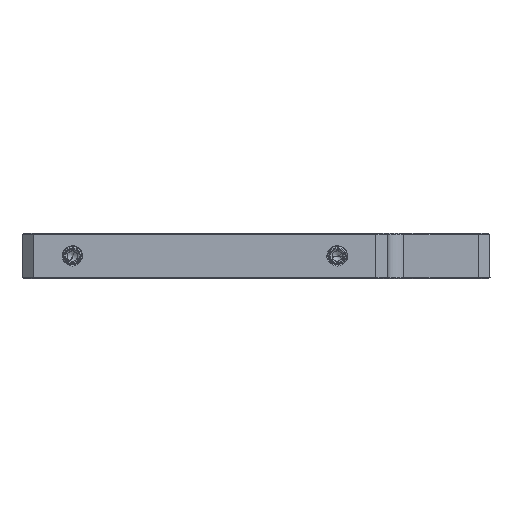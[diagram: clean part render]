
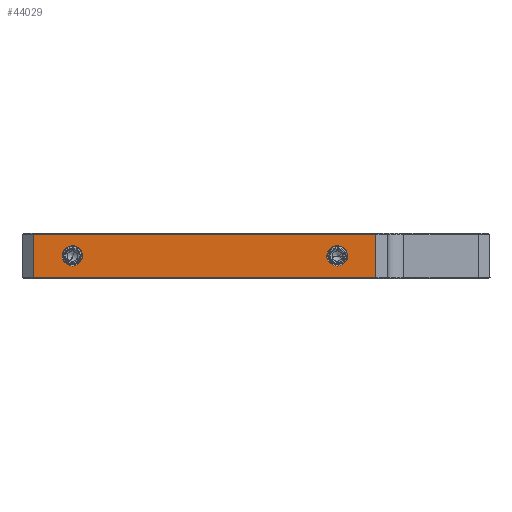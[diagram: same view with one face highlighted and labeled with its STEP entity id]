
A CAD part, left-side view. The second image highlights one B-rep face of the part: STEP entity #44029.
In plain terms, the highlighted planar face has unit normal (-1, 0, 0).
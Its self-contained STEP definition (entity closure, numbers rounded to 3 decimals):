
#29282=DIRECTION('',(0.,-1.,0.));
#29283=VECTOR('',#29282,66.548);
#29284=CARTESIAN_POINT('',(-50.008,46.47,
16.128));
#29285=LINE('',#29284,#29283);
#29286=DIRECTION('',(0.,0.,1.));
#29287=VECTOR('',#29286,8.382);
#29288=CARTESIAN_POINT('',(-50.008,-20.078,
7.746));
#29289=LINE('',#29288,#29287);
#29290=CARTESIAN_POINT('',(-50.008,40.613,
10.915));
#29291=CARTESIAN_POINT('',(-50.008,40.666,
10.986));
#29292=CARTESIAN_POINT('',(-50.008,40.762,
11.132));
#29293=CARTESIAN_POINT('',(-50.008,40.836,
11.285));
#29294=CARTESIAN_POINT('',(-50.008,40.868,
11.364));
#29296=CARTESIAN_POINT('',(-50.008,40.229,
13.477));
#29297=CARTESIAN_POINT('',(-50.008,40.158,
13.525));
#29298=CARTESIAN_POINT('',(-50.008,40.01,
13.612));
#29299=CARTESIAN_POINT('',(-50.008,39.85,
13.68));
#29300=CARTESIAN_POINT('',(-50.008,39.767,
13.709));
#29302=CARTESIAN_POINT('',(-50.008,40.868,
11.364));
#29303=CARTESIAN_POINT('',(-50.008,40.926,
11.557));
#29304=CARTESIAN_POINT('',(-50.008,40.979,
11.942));
#29305=CARTESIAN_POINT('',(-50.008,40.895,
12.522));
#29306=CARTESIAN_POINT('',(-50.008,40.637,
13.066));
#29307=CARTESIAN_POINT('',(-50.008,40.381,
13.35));
#29308=CARTESIAN_POINT('',(-50.008,40.229,
13.477));
#29310=CARTESIAN_POINT('',(-50.008,-14.476,
11.364));
#29311=CARTESIAN_POINT('',(-50.008,-14.443,
11.285));
#29312=CARTESIAN_POINT('',(-50.008,-14.369,
11.132));
#29313=CARTESIAN_POINT('',(-50.008,-14.274,
10.986));
#29314=CARTESIAN_POINT('',(-50.008,-14.22,
10.915));
#29316=CARTESIAN_POINT('',(-50.008,-13.836,
13.477));
#29317=CARTESIAN_POINT('',(-50.008,-13.989,
13.35));
#29318=CARTESIAN_POINT('',(-50.008,-14.245,
13.066));
#29319=CARTESIAN_POINT('',(-50.008,-14.503,
12.522));
#29320=CARTESIAN_POINT('',(-50.008,-14.587,
11.942));
#29321=CARTESIAN_POINT('',(-50.008,-14.533,
11.557));
#29322=CARTESIAN_POINT('',(-50.008,-14.476,
11.364));
#29324=CARTESIAN_POINT('',(-50.008,-13.375,
13.709));
#29325=CARTESIAN_POINT('',(-50.008,-13.458,
13.68));
#29326=CARTESIAN_POINT('',(-50.008,-13.617,
13.612));
#29327=CARTESIAN_POINT('',(-50.008,-13.765,
13.525));
#29328=CARTESIAN_POINT('',(-50.008,-13.836,
13.477));
#29330=DIRECTION('',(0.,0.,1.));
#29331=VECTOR('',#29330,8.382);
#29332=CARTESIAN_POINT('',(-50.008,46.47,
7.746));
#29333=LINE('',#29332,#29331);
#29619=DIRECTION('',(0.,1.,0.));
#29620=VECTOR('',#29619,66.548);
#29621=CARTESIAN_POINT('',(-50.008,-20.078,
7.746));
#29622=LINE('',#29621,#29620);
#30643=CARTESIAN_POINT('',(-50.008,38.952,
11.937));
#30644=DIRECTION('',(1.,0.,0.));
#30645=DIRECTION('',(0.,0.418,0.908));
#30646=AXIS2_PLACEMENT_3D('',#30643,#30644,#30645);
#33845=CARTESIAN_POINT('',(-50.008,-14.476,
11.364));
#34193=CARTESIAN_POINT('',(-50.008,-13.836,
13.477));
#34985=CARTESIAN_POINT('',(-50.008,-12.559,
11.937));
#34986=DIRECTION('',(1.,0.,0.));
#34987=DIRECTION('',(0.,-0.852,-0.524));
#34988=AXIS2_PLACEMENT_3D('',#34985,#34986,#34987);
#42768=CARTESIAN_POINT('',(-50.008,-20.078,
16.128));
#42770=VERTEX_POINT('',#42768);
#42848=CARTESIAN_POINT('',(-50.008,-20.078,
7.746));
#42849=CARTESIAN_POINT('',(-50.008,46.47,
7.746));
#42850=VERTEX_POINT('',#42848);
#42851=VERTEX_POINT('',#42849);
#42922=CARTESIAN_POINT('',(-50.008,46.47,
16.128));
#42923=VERTEX_POINT('',#42922);
#43036=VERTEX_POINT('',#29290);
#43037=VERTEX_POINT('',#29294);
#43038=VERTEX_POINT('',#29308);
#43039=VERTEX_POINT('',#29300);
#43143=VERTEX_POINT('',#33845);
#43144=VERTEX_POINT('',#34193);
#43179=VERTEX_POINT('',#29314);
#43180=VERTEX_POINT('',#29324);
#43995=CARTESIAN_POINT('',(-50.008,-20.078,
16.382));
#43996=DIRECTION('',(1.,0.,0.));
#43997=DIRECTION('',(0.,0.,-1.));
#43998=AXIS2_PLACEMENT_3D('',#43995,#43996,#43997);
#43999=PLANE('',#43998);
#44001=ORIENTED_EDGE('',*,*,#44000,.T.);
#44002=ORIENTED_EDGE('',*,*,#43990,.T.);
#44004=ORIENTED_EDGE('',*,*,#44003,.F.);
#44006=ORIENTED_EDGE('',*,*,#44005,.T.);
#44007=EDGE_LOOP('',(#44001,#44002,#44004,#44006));
#44008=FACE_OUTER_BOUND('',#44007,.F.);
#44010=ORIENTED_EDGE('',*,*,#44009,.F.);
#44012=ORIENTED_EDGE('',*,*,#44011,.F.);
#44014=ORIENTED_EDGE('',*,*,#44013,.F.);
#44016=ORIENTED_EDGE('',*,*,#44015,.F.);
#44017=EDGE_LOOP('',(#44010,#44012,#44014,#44016));
#44018=FACE_BOUND('',#44017,.F.);
#44020=ORIENTED_EDGE('',*,*,#44019,.F.);
#44022=ORIENTED_EDGE('',*,*,#44021,.F.);
#44024=ORIENTED_EDGE('',*,*,#44023,.F.);
#44026=ORIENTED_EDGE('',*,*,#44025,.F.);
#44027=EDGE_LOOP('',(#44020,#44022,#44024,#44026));
#44028=FACE_BOUND('',#44027,.F.);
#44029=ADVANCED_FACE('',(#44008,#44018,#44028),#43999,.F.);
#29295=B_SPLINE_CURVE_WITH_KNOTS('',3,(#29290,#29291,#29292,#29293,#29294),
.UNSPECIFIED.,.F.,.F.,(4,1,4),(0.,0.5,1.),.UNSPECIFIED.);
#29301=B_SPLINE_CURVE_WITH_KNOTS('',3,(#29296,#29297,#29298,#29299,#29300),
.UNSPECIFIED.,.F.,.F.,(4,1,4),(0.,0.5,1.),.UNSPECIFIED.);
#29309=B_SPLINE_CURVE_WITH_KNOTS('',3,(#29302,#29303,#29304,#29305,#29306,
#29307,#29308),.UNSPECIFIED.,.F.,.F.,(4,1,1,1,4),(0.,0.25,0.5,0.75,
1.),.UNSPECIFIED.);
#29315=B_SPLINE_CURVE_WITH_KNOTS('',3,(#29310,#29311,#29312,#29313,#29314),
.UNSPECIFIED.,.F.,.F.,(4,1,4),(0.,0.5,1.),.UNSPECIFIED.);
#29323=B_SPLINE_CURVE_WITH_KNOTS('',3,(#29316,#29317,#29318,#29319,#29320,
#29321,#29322),.UNSPECIFIED.,.F.,.F.,(4,1,1,1,4),(0.,0.25,0.5,0.75,
1.),.UNSPECIFIED.);
#29329=B_SPLINE_CURVE_WITH_KNOTS('',3,(#29324,#29325,#29326,#29327,#29328),
.UNSPECIFIED.,.F.,.F.,(4,1,4),(0.,0.5,1.),.UNSPECIFIED.);
#30647=CIRCLE('',#30646,1.95);
#34989=CIRCLE('',#34988,1.95);
#43990=EDGE_CURVE('',#42923,#42770,#29285,.T.);
#44000=EDGE_CURVE('',#42851,#42923,#29333,.T.);
#44003=EDGE_CURVE('',#42850,#42770,#29289,.T.);
#44005=EDGE_CURVE('',#42850,#42851,#29622,.T.);
#44009=EDGE_CURVE('',#43036,#43037,#29295,.T.);
#44011=EDGE_CURVE('',#43039,#43036,#30647,.T.);
#44013=EDGE_CURVE('',#43038,#43039,#29301,.T.);
#44015=EDGE_CURVE('',#43037,#43038,#29309,.T.);
#44019=EDGE_CURVE('',#43143,#43179,#29315,.T.);
#44021=EDGE_CURVE('',#43144,#43143,#29323,.T.);
#44023=EDGE_CURVE('',#43180,#43144,#29329,.T.);
#44025=EDGE_CURVE('',#43179,#43180,#34989,.T.);
